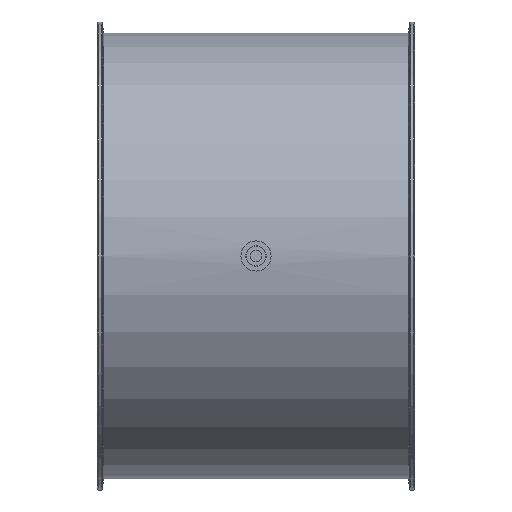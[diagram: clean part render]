
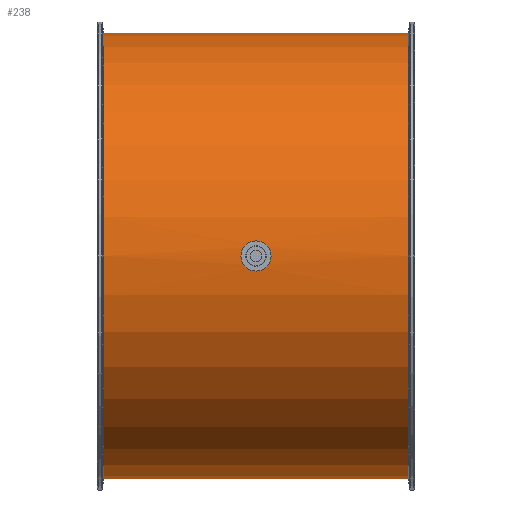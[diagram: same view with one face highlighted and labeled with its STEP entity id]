
A CAD part, front view. The second image highlights one B-rep face of the part: STEP entity #238.
In plain terms, the highlighted cylindrical face has radius 281 mm (diameter 562 mm), a full revolution.
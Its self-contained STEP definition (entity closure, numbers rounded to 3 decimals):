
#103=B_SPLINE_CURVE_WITH_KNOTS('',3,(#1987,#1988,#1989,#1990,#1991,#1992,
#1993,#1994,#1995,#1996,#1997,#1998,#1999,#2000,#2001,#2002,#2003,#2004),
 .UNSPECIFIED.,.T.,.F.,(2,2,2,2,2,2,2,2,2,2,2),(-0.125,0.,0.125,0.25,0.375,
0.5,0.625,0.75,0.875,1.,1.125),.UNSPECIFIED.);
#104=B_SPLINE_CURVE_WITH_KNOTS('',3,(#2006,#2007,#2008,#2009,#2010,#2011,
#2012,#2013,#2014,#2015,#2016,#2017,#2018,#2019,#2020,#2021,#2022,#2023),
 .UNSPECIFIED.,.T.,.F.,(2,2,2,2,2,2,2,2,2,2,2),(-0.125,0.,0.125,0.25,0.375,
0.5,0.625,0.75,0.875,1.,1.125),.UNSPECIFIED.);
#151=CYLINDRICAL_SURFACE('',#1348,281.);
#238=ADVANCED_FACE('',(#460,#461,#462,#463),#151,.T.);
#356=CIRCLE('',#1343,281.);
#358=CIRCLE('',#1346,281.);
#460=FACE_BOUND('',#626,.T.);
#461=FACE_BOUND('',#627,.T.);
#462=FACE_BOUND('',#628,.T.);
#463=FACE_BOUND('',#629,.T.);
#626=EDGE_LOOP('',(#868));
#627=EDGE_LOOP('',(#869));
#628=EDGE_LOOP('',(#870));
#629=EDGE_LOOP('',(#871));
#868=ORIENTED_EDGE('',*,*,#1134,.F.);
#869=ORIENTED_EDGE('',*,*,#1136,.F.);
#870=ORIENTED_EDGE('',*,*,#1137,.F.);
#871=ORIENTED_EDGE('',*,*,#1138,.F.);
#1013=VERTEX_POINT('',#1980);
#1015=VERTEX_POINT('',#1985);
#1016=VERTEX_POINT('',#2005);
#1017=VERTEX_POINT('',#2024);
#1134=EDGE_CURVE('',#1013,#1013,#356,.T.);
#1136=EDGE_CURVE('',#1015,#1015,#358,.T.);
#1137=EDGE_CURVE('',#1016,#1016,#103,.T.);
#1138=EDGE_CURVE('',#1017,#1017,#104,.T.);
#1343=AXIS2_PLACEMENT_3D('',#1979,#1631,#1632);
#1346=AXIS2_PLACEMENT_3D('',#1984,#1637,#1638);
#1348=AXIS2_PLACEMENT_3D('',#2025,#1641,#1642);
#1631=DIRECTION('',(1.,0.,0.));
#1632=DIRECTION('',(0.,0.,-1.));
#1637=DIRECTION('',(-1.,0.,0.));
#1638=DIRECTION('',(0.,0.,1.));
#1641=DIRECTION('',(1.,0.,0.));
#1642=DIRECTION('',(0.,0.,-1.));
#1979=CARTESIAN_POINT('',(192.133,-109.,125.));
#1980=CARTESIAN_POINT('',(192.133,-109.,-156.));
#1984=CARTESIAN_POINT('',(-192.133,-109.,125.));
#1985=CARTESIAN_POINT('',(-192.133,-109.,406.));
#1987=CARTESIAN_POINT('',(3.436,171.699,112.));
#1988=CARTESIAN_POINT('',(-3.436,171.699,112.));
#1989=CARTESIAN_POINT('',(-6.795,171.771,113.41));
#1990=CARTESIAN_POINT('',(-11.591,171.928,118.207));
#1991=CARTESIAN_POINT('',(-12.998,172.,121.601));
#1992=CARTESIAN_POINT('',(-13.002,172.,128.385));
#1993=CARTESIAN_POINT('',(-11.623,171.929,131.76));
#1994=CARTESIAN_POINT('',(-6.771,171.77,136.616));
#1995=CARTESIAN_POINT('',(-3.398,171.699,137.999));
#1996=CARTESIAN_POINT('',(3.389,171.699,138.001));
#1997=CARTESIAN_POINT('',(6.784,171.771,136.596));
#1998=CARTESIAN_POINT('',(11.583,171.928,131.806));
#1999=CARTESIAN_POINT('',(12.997,172.,128.443));
#2000=CARTESIAN_POINT('',(13.003,172.,121.583));
#2001=CARTESIAN_POINT('',(11.598,171.928,118.217));
#2002=CARTESIAN_POINT('',(6.802,171.771,113.413));
#2003=CARTESIAN_POINT('',(3.436,171.699,112.));
#2004=CARTESIAN_POINT('',(-3.436,171.699,112.));
#2005=CARTESIAN_POINT('',(0.,171.699,112.));
#2006=CARTESIAN_POINT('',(-3.436,-389.699,112.));
#2007=CARTESIAN_POINT('',(3.436,-389.699,112.));
#2008=CARTESIAN_POINT('',(6.795,-389.771,113.41));
#2009=CARTESIAN_POINT('',(11.591,-389.928,118.207));
#2010=CARTESIAN_POINT('',(12.998,-390.,121.601));
#2011=CARTESIAN_POINT('',(13.002,-390.,128.385));
#2012=CARTESIAN_POINT('',(11.623,-389.929,131.76));
#2013=CARTESIAN_POINT('',(6.771,-389.77,136.616));
#2014=CARTESIAN_POINT('',(3.398,-389.699,137.999));
#2015=CARTESIAN_POINT('',(-3.389,-389.699,138.001));
#2016=CARTESIAN_POINT('',(-6.784,-389.771,136.596));
#2017=CARTESIAN_POINT('',(-11.583,-389.928,131.806));
#2018=CARTESIAN_POINT('',(-12.997,-390.,128.443));
#2019=CARTESIAN_POINT('',(-13.003,-390.,121.583));
#2020=CARTESIAN_POINT('',(-11.598,-389.928,118.217));
#2021=CARTESIAN_POINT('',(-6.802,-389.771,113.413));
#2022=CARTESIAN_POINT('',(-3.436,-389.699,112.));
#2023=CARTESIAN_POINT('',(3.436,-389.699,112.));
#2024=CARTESIAN_POINT('',(0.,-389.699,112.));
#2025=CARTESIAN_POINT('',(-200.,-109.,125.));
